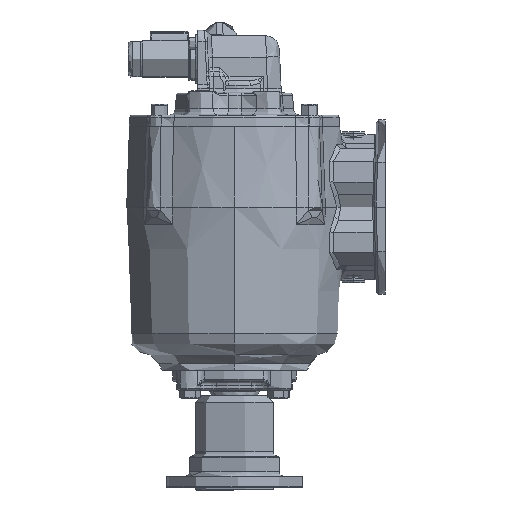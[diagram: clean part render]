
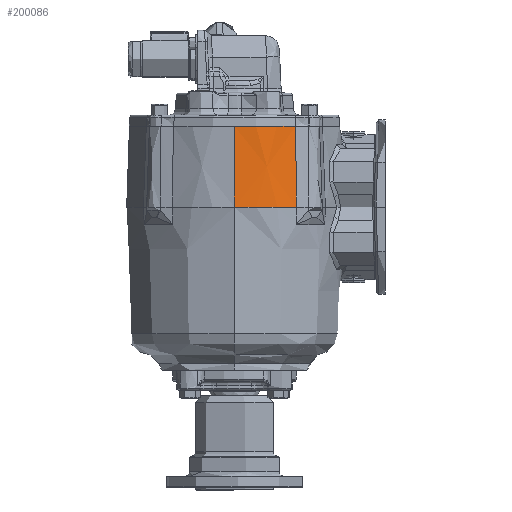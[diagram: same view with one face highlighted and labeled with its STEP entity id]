
A CAD part, left-side view. The second image highlights one B-rep face of the part: STEP entity #200086.
In plain terms, the highlighted conical face has half-angle 2 degrees and reference radius 78.232 mm.
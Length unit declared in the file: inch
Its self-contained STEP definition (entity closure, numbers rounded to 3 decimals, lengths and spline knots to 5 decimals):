
#5133 = AXIS2_PLACEMENT_3D ( 'NONE', #65756, #174678, #31286 ) ;
#11954 = CIRCLE ( 'NONE', #5133, 3.08 ) ;
#19804 = VERTEX_POINT ( 'NONE', #38070 ) ;
#22962 = B_SPLINE_CURVE_WITH_KNOTS ( 'NONE', 3,
 ( #104229, #69696, #133515, #182726 ),
 .UNSPECIFIED., .F., .F.,
 ( 4, 4 ),
 ( 0., 1. ),
 .UNSPECIFIED. ) ;
#31286 = DIRECTION ( 'NONE',  ( 1., 0., 0. ) ) ;
#38070 = CARTESIAN_POINT ( 'NONE',  ( -4.25092, 3.3296, 2.2645 ) ) ;
#39818 = CARTESIAN_POINT ( 'NONE',  ( -1.25, 3.3296, 2.2645 ) ) ;
#54004 = EDGE_CURVE ( 'NONE', #91901, #201422, #11954, .T. ) ;
#60159 = EDGE_CURVE ( 'NONE', #91901, #185214, #22962, .T. ) ;
#60486 = EDGE_LOOP ( 'NONE', ( #77864, #75008, #197238, #183641 ) ) ;
#65756 = CARTESIAN_POINT ( 'NONE',  ( -1.25, 3.3296, 0. ) ) ;
#69696 = CARTESIAN_POINT ( 'NONE',  ( -3.76669, 1.60156, 0.77814 ) ) ;
#72811 = CARTESIAN_POINT ( 'NONE',  ( -4.33, 3.3296, 0. ) ) ;
#75008 = ORIENTED_EDGE ( 'NONE', *, *, #140150, .T. ) ;
#77864 = ORIENTED_EDGE ( 'NONE', *, *, #133703, .T. ) ;
#81167 = CARTESIAN_POINT ( 'NONE',  ( -3.71437, 1.61717, 2.2645 ) ) ;
#90060 = CARTESIAN_POINT ( 'NONE',  ( -1.25, 3.3296, 0. ) ) ;
#91901 = VERTEX_POINT ( 'NONE', #130663 ) ;
#99498 = DIRECTION ( 'NONE',  ( 0., 0., -1. ) ) ;
#103513 = AXIS2_PLACEMENT_3D ( 'NONE', #39818, #99498, #193377 ) ;
#104229 = CARTESIAN_POINT ( 'NONE',  ( -3.79389, 1.59322, 0. ) ) ;
#120402 = DIRECTION ( 'NONE',  ( 0., 0., -1. ) ) ;
#130663 = CARTESIAN_POINT ( 'NONE',  ( -3.79389, 1.59322, 0. ) ) ;
#133515 = CARTESIAN_POINT ( 'NONE',  ( -3.74018, 1.60955, 1.53298 ) ) ;
#133703 = EDGE_CURVE ( 'NONE', #185214, #19804, #193769, .T. ) ;
#136100 = FACE_OUTER_BOUND ( 'NONE', #60486, .T. ) ;
#137853 = CONICAL_SURFACE ( 'NONE', #204674, 3.08, 0.035 ) ;
#139205 = DIRECTION ( 'NONE',  ( -0.035, 0., -0.999 ) ) ;
#140150 = EDGE_CURVE ( 'NONE', #19804, #201422, #140233, .T. ) ;
#140233 = LINE ( 'NONE', #155956, #185805 ) ;
#155956 = CARTESIAN_POINT ( 'NONE',  ( -4.33, 3.3296, 0. ) ) ;
#174678 = DIRECTION ( 'NONE',  ( 0., 0., -1. ) ) ;
#182726 = CARTESIAN_POINT ( 'NONE',  ( -3.71437, 1.61717, 2.2645 ) ) ;
#183641 = ORIENTED_EDGE ( 'NONE', *, *, #60159, .T. ) ;
#184283 = DIRECTION ( 'NONE',  ( -1., 0., 0. ) ) ;
#185214 = VERTEX_POINT ( 'NONE', #81167 ) ;
#185805 = VECTOR ( 'NONE', #139205, 39.37008 ) ;
#193377 = DIRECTION ( 'NONE',  ( -1., 0., 0. ) ) ;
#193769 = CIRCLE ( 'NONE', #103513, 3.00092 ) ;
#197238 = ORIENTED_EDGE ( 'NONE', *, *, #54004, .F. ) ;
#200086 = ADVANCED_FACE ( 'NONE', ( #136100 ), #137853, .T. ) ;
#201422 = VERTEX_POINT ( 'NONE', #72811 ) ;
#204674 = AXIS2_PLACEMENT_3D ( 'NONE', #90060, #120402, #184283 ) ;
